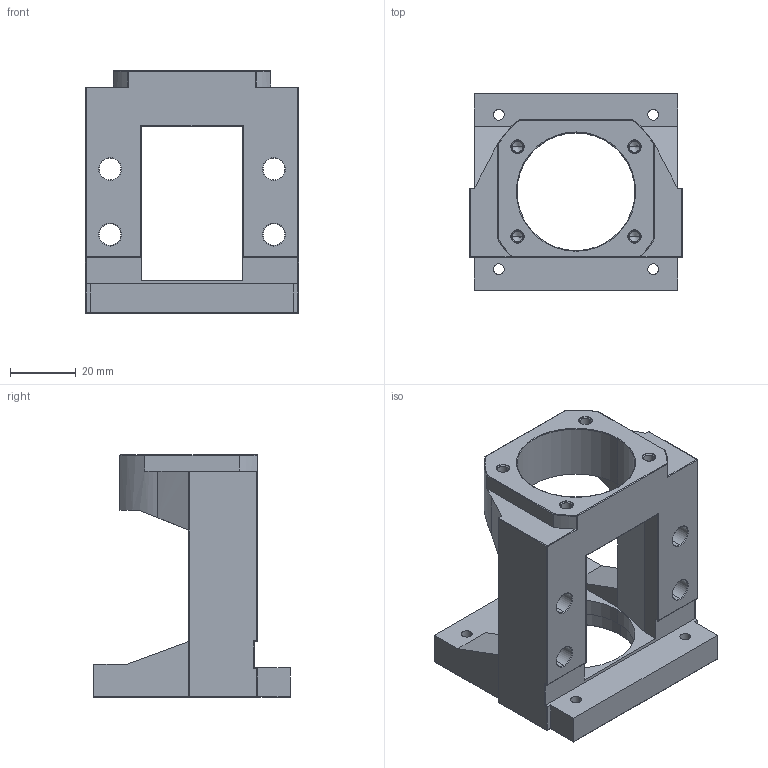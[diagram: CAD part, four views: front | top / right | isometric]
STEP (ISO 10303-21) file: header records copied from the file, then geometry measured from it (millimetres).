
FILE_DESCRIPTION (( 'STEP AP203' ), '1' );
FILE_NAME ('美式MBL10-C.STEP', '2017-12-28T06:04:14', ( '' ), ( '' ), 'SwSTEP 2.0', 'SolidWorks 2017', '' );
FILE_SCHEMA (( 'CONFIG_CONTROL_DESIGN' ));
Length unit declared in the file: millimetre
Products named in the file (1): 美式MBL10-C
Bounding box: 65 x 60 x 74 mm (x, y, z)
Volume: 77037 mm3; surface area: 25126.3 mm2
Topology: 1 solids, 1 shells, 192 faces, 467 edges, 266 vertices
Faces by surface type: cylinder 83, plane 43, torus 32, cone 24, sphere 10
Entity records: 5576 total; most frequent: CARTESIAN_POINT 1022, DIRECTION 1003, ORIENTED_EDGE 898, EDGE_CURVE 449, AXIS2_PLACEMENT_3D 395, VERTEX_POINT 266, EDGE_LOOP 221, VECTOR 213
